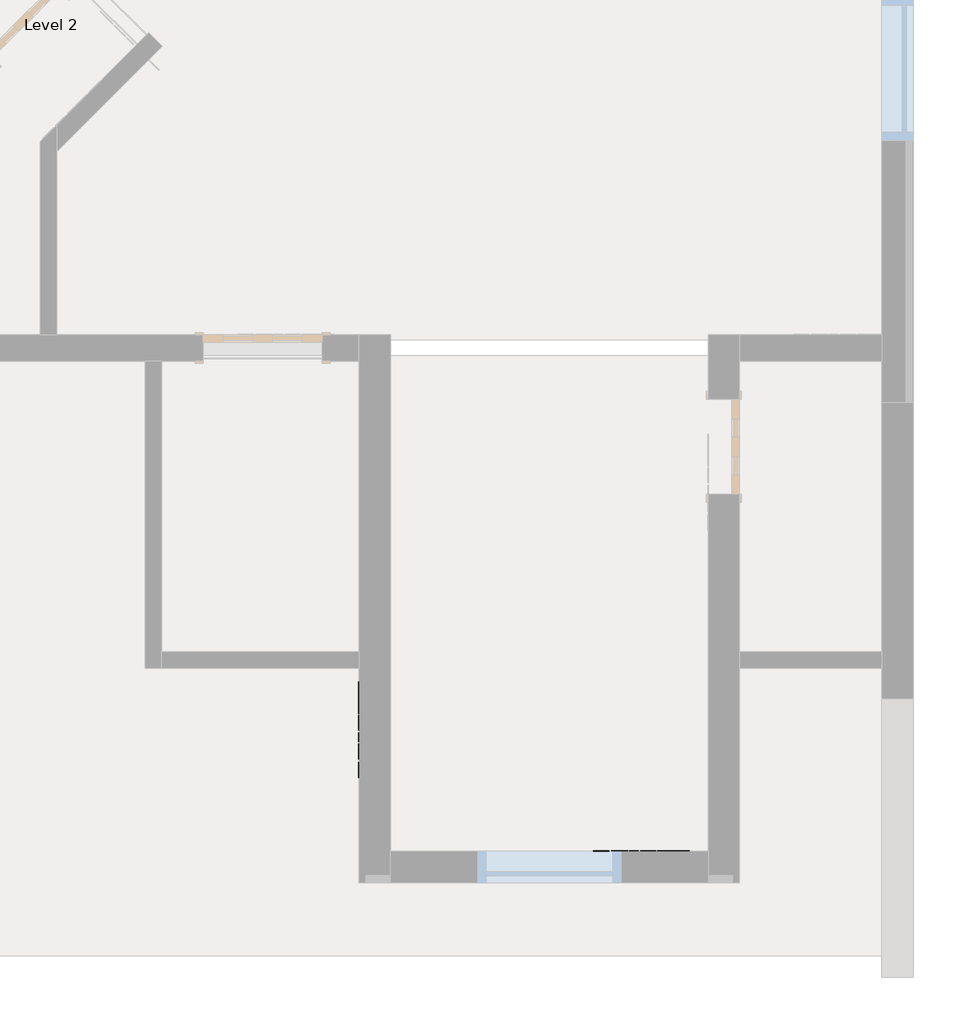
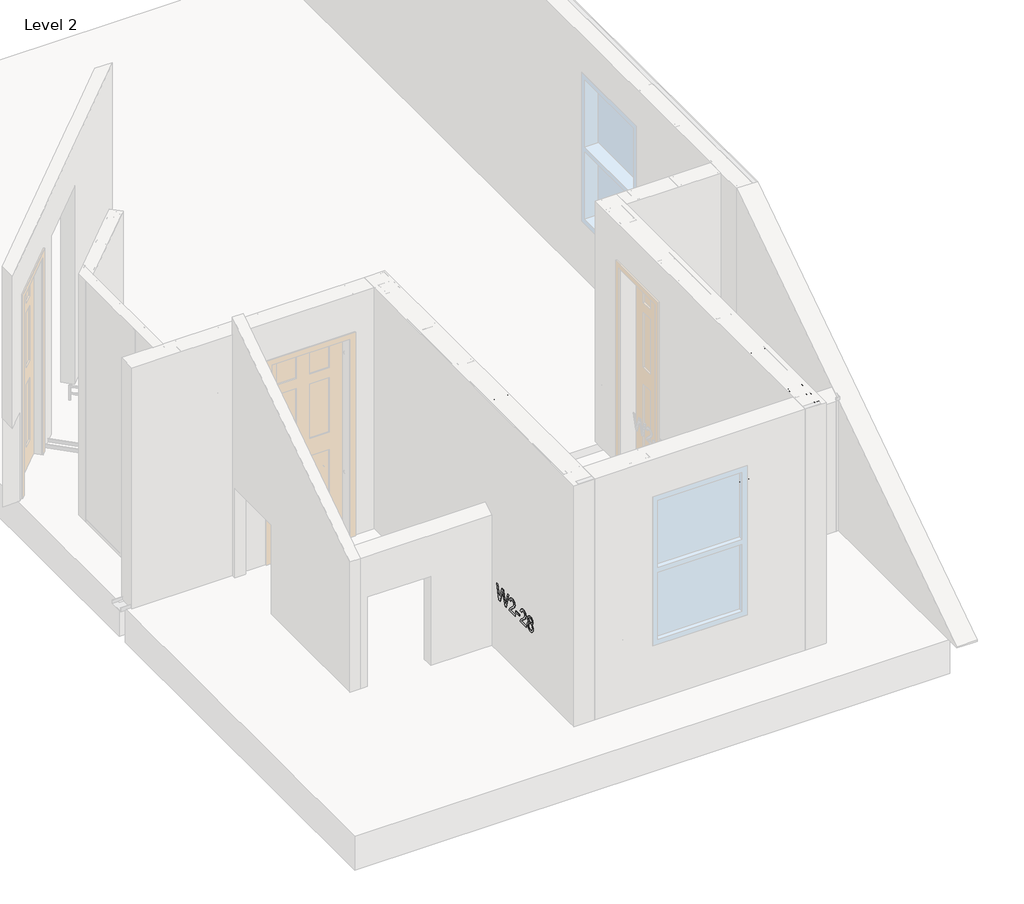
# One storey, part 20 of 46: 6 columns, 2 fasteners, 1 beam.
"""IFC4 building model written with IfcOpenShell, lengths in millimetres."""

from ifc_helpers import new_model, si_unit, point, frame, origin, place, context, project, spatial, circle_curve, ellipse_curve, trimmed, transform, mapped, element, save
from ifc_brep_helpers import plane_surface, extruded_surface, advanced_brep
from components import beam_550nf150_43_cb838aee, panellabel_70b53482, panellabel_4da81780

model = new_model("IFC4")

# Units and contexts
model_context = context("Model", 3, world=origin())
ifc_project = project(units=[si_unit("LENGTHUNIT", "METRE", prefix="MILLI")], contexts=[model_context])

# Site, building, storey
site = spatial("IfcSite", under=ifc_project)
building = spatial("IfcBuilding", under=site)
storey = spatial("IfcBuildingStorey", under=building, Name="Level 2", Elevation=3060.7)

# Beam
placement = place(None, origin())
beam_550nf150_43_shape = beam_550nf150_43_cb838aee(model_context)
element("IfcBeam", 1, ObjectType="BIMSF-SSMA-S : 550NF150-43", at=placement, inside=storey, context=model_context, shape_type="MappedRepresentation", body=[
    mapped(beam_550nf150_43_shape, transform((-6461.2538349, 4799.933471, 3076.575), x_axis=(0.0, 1.0000000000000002, 0.0), y_axis=(0.0, 0.0, -1.0000000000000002), z_axis=(-1.0000000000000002, 0.0, 0.0))),
])

# Columns
element("IfcColumn", 2, ObjectType="BIMSF-SSMA-S-Column : 550NF150-43", at=placement, inside=storey, context=model_context, shape_type="AdvancedBrep", body=[
    advanced_brep(
    [(-4184.7788349, 3927.602221, 3061.5929687), (-4324.4788349, 3927.602221, 3061.5929687), (-4324.4788349, 3965.702221, 3061.5929687), (-4318.5539507, 3965.702221, 3061.5929687), (-4318.5539507, 3964.5525367, 3061.5929687), (-4323.3291507, 3964.5525367, 3061.5929687), (-4323.3291507, 3928.7519052, 3061.5929687), (-4185.9285191, 3928.7519052, 3061.5929687), (-4185.9285191, 3964.5525367, 3061.5929687), (-4190.7037191, 3964.5525367, 3061.5929687), (-4190.7037191, 3965.702221, 3061.5929687), (-4184.7788349, 3965.702221, 3061.5929687), (-4184.7788349, 3927.602221, 5523.6070313), (-4324.4788349, 3927.602221, 5523.6070313), (-4267.3288349, 3927.602221, 3671.1929688), (-4241.9288349, 3927.602221, 3671.1929687), (-4267.3288349, 3927.602221, 4890.3929687), (-4241.9288349, 3927.602221, 4890.3929687), (-4324.4788349, 3965.702221, 5523.6070313), (-4318.5539507, 3965.702221, 5523.6070313), (-4318.5539507, 3964.5525367, 5523.6070313), (-4323.3291507, 3964.5525367, 5523.6070313), (-4323.3291507, 3928.7519052, 5523.6070313), (-4185.9285191, 3928.7519052, 5523.6070313), (-4241.9288349, 3928.7519052, 3671.1929687), (-4267.3288349, 3928.7519052, 3671.1929688), (-4241.9288349, 3928.7519052, 4890.3929687), (-4267.3288349, 3928.7519052, 4890.3929687), (-4185.9285191, 3964.5525367, 5523.6070313), (-4190.7037191, 3964.5525367, 5523.6070313), (-4190.7037191, 3965.702221, 5523.6070313), (-4184.7788349, 3965.702221, 5523.6070313)],
    [
        (0, 1),
        (1, 2),
        (2, 3),
        (3, 4),
        (4, 5),
        (5, 6),
        (6, 7),
        (7, 8),
        (8, 9),
        (9, 10),
        (10, 11),
        (11, 0),
        (0, 12),
        (12, 13),
        (13, 1),
        (14, 15, circle_curve(frame((-4254.6288349, 3927.602221, 3671.1929688), z_axis=(0.0, 1.0, 0.0), x_axis=(-1.0, 0.0, 0.0)), 12.7)),
        (15, 14, circle_curve(frame((-4254.6288349, 3927.602221, 3671.1929687), z_axis=(0.0, 1.0, 0.0), x_axis=(-1.0, 0.0, 0.0)), 12.7)),
        (16, 17, circle_curve(frame((-4254.6288349, 3927.602221, 4890.3929687), z_axis=(0.0, 1.0, 0.0), x_axis=(-1.0, 0.0, 0.0)), 12.7)),
        (17, 16, circle_curve(frame((-4254.6288349, 3927.602221, 4890.3929687), z_axis=(0.0, 1.0, 0.0), x_axis=(-1.0, 0.0, 0.0)), 12.7)),
        (13, 18),
        (18, 2),
        (18, 19),
        (19, 3),
        (19, 20),
        (20, 4),
        (20, 21),
        (21, 5),
        (21, 22),
        (22, 6),
        (22, 23),
        (23, 7),
        (24, 25, circle_curve(frame((-4254.6288349, 3928.7519052, 3671.1929688), z_axis=(0.0, -1.0, 0.0), x_axis=(-1.0, 0.0, 0.0)), 12.7)),
        (25, 24, circle_curve(frame((-4254.6288349, 3928.7519052, 3671.1929688), z_axis=(0.0, -1.0, 0.0), x_axis=(-1.0, 0.0, 0.0)), 12.7)),
        (26, 27, circle_curve(frame((-4254.6288349, 3928.7519052, 4890.3929687), z_axis=(0.0, -1.0, 0.0), x_axis=(-1.0, 0.0, 0.0)), 12.7)),
        (27, 26, circle_curve(frame((-4254.6288349, 3928.7519052, 4890.3929687), z_axis=(0.0, -1.0, 0.0), x_axis=(-1.0, 0.0, 0.0)), 12.7)),
        (23, 28),
        (28, 8),
        (28, 29),
        (29, 9),
        (29, 30),
        (30, 10),
        (30, 31),
        (31, 11),
        (31, 12),
        (24, 15),
        (14, 25),
        (26, 17),
        (16, 27),
    ],
    [
        plane_surface(frame((-4184.7788349, 3927.602221, 3061.5929687), z_axis=(0.0, 0.0, -1.0), x_axis=(0.0, -1.0, 0.0))),
        plane_surface(frame((-4324.4788349, 3927.602221, 5523.6070313), z_axis=(0.0, -1.0, 0.0), x_axis=(0.0, 0.0, -1.0))),
        plane_surface(frame((-4324.4788349, 3965.702221, 5523.6070313), z_axis=(-1.0, 0.0, 0.0), x_axis=(0.0, 0.0, -1.0))),
        plane_surface(frame((-4318.5539507, 3965.702221, 5523.6070313), z_axis=(0.0, 1.0, 0.0), x_axis=(0.0, 0.0, -1.0))),
        plane_surface(frame((-4318.5539507, 3964.5525367, 5523.6070313), z_axis=(1.0, 0.0, 0.0), x_axis=(0.0, 0.0, -1.0))),
        plane_surface(frame((-4323.3291507, 3964.5525367, 5523.6070313), z_axis=(0.0, -1.0, 0.0), x_axis=(0.0, 0.0, -1.0))),
        plane_surface(frame((-4323.3291507, 3928.7519052, 5523.6070313), z_axis=(1.0, 0.0, 0.0), x_axis=(0.0, 0.0, -1.0))),
        plane_surface(frame((-4185.9285191, 3928.7519052, 5523.6070313), z_axis=(0.0, 1.0, 0.0), x_axis=(0.0, 0.0, -1.0))),
        plane_surface(frame((-4185.9285191, 3964.5525367, 5523.6070313), z_axis=(-1.0, 0.0, 0.0), x_axis=(0.0, 0.0, -1.0))),
        plane_surface(frame((-4190.7037191, 3964.5525367, 5523.6070313), z_axis=(0.0, -1.0, 0.0), x_axis=(0.0, 0.0, -1.0))),
        plane_surface(frame((-4190.7037191, 3965.702221, 5523.6070313), z_axis=(-1.0, 0.0, 0.0), x_axis=(0.0, 0.0, -1.0))),
        plane_surface(frame((-4184.7788349, 3965.702221, 5523.6070313), z_axis=(0.0, 1.0, 0.0), x_axis=(0.0, 0.0, -1.0))),
        plane_surface(frame((-4184.7788349, 3927.602221, 5523.6070313), z_axis=(1.0, 0.0, 0.0), x_axis=(0.0, 0.0, -1.0))),
        plane_surface(frame((-4184.7788349, 3927.602221, 5523.6070313), z_axis=(0.0, 0.0, 1.0), x_axis=(0.0, 1.0, 0.0))),
        extruded_surface(trimmed(ellipse_curve(frame((-4254.6288349, 6408.6662835, 3671.1929688), z_axis=(0.0, -1.0, 0.0), x_axis=(-1.0, 0.0, 0.0)), 12.7, 12.7), [point((-4241.9288349, 6408.6662835, 3671.1929688))], [point((-4267.3288349, 6408.6662835, 3671.1929688))], True, "CARTESIAN"), (0.0, 4924.028125, 0.0), 4924.028125),
        extruded_surface(trimmed(ellipse_curve(frame((-4254.6288349, 6408.6662835, 3671.1929688), z_axis=(0.0, -1.0, 0.0), x_axis=(-1.0, 0.0, 0.0)), 12.7, 12.7), [point((-4267.3288349, 6408.6662835, 3671.1929688))], [point((-4241.9288349, 6408.6662835, 3671.1929688))], True, "CARTESIAN"), (0.0, 4924.028125, 0.0), 4924.028125),
        extruded_surface(trimmed(ellipse_curve(frame((-4254.6288349, 6408.6662835, 4890.3929687), z_axis=(0.0, -1.0, 0.0), x_axis=(-1.0, 0.0, 0.0)), 12.7, 12.7), [point((-4241.9288349, 6408.6662835, 4890.3929687))], [point((-4267.3288349, 6408.6662835, 4890.3929687))], True, "CARTESIAN"), (0.0, 4924.028125, 0.0), 4924.028125),
        extruded_surface(trimmed(ellipse_curve(frame((-4254.6288349, 6408.6662835, 4890.3929687), z_axis=(0.0, -1.0, 0.0), x_axis=(-1.0, 0.0, 0.0)), 12.7, 12.7), [point((-4267.3288349, 6408.6662835, 4890.3929687))], [point((-4241.9288349, 6408.6662835, 4890.3929687))], True, "CARTESIAN"), (0.0, 4924.028125, 0.0), 4924.028125),
    ],
    [
        (0, [[1, 2, 3, 4, 5, 6, 7, 8, 9, 10, 11, 12]]),
        (1, [[-1, 13, 14, 15], [16, 17], [18, 19]]),
        (2, [[-2, -15, 20, 21]]),
        (3, [[-3, -21, 22, 23]]),
        (4, [[-4, -23, 24, 25]]),
        (5, [[-5, -25, 26, 27]]),
        (6, [[-6, -27, 28, 29]]),
        (7, [[-7, -29, 30, 31], [32, 33], [34, 35]]),
        (8, [[-8, -31, 36, 37]]),
        (9, [[-9, -37, 38, 39]]),
        (10, [[-10, -39, 40, 41]]),
        (11, [[-11, -41, 42, 43]]),
        (12, [[-12, -43, 44, -13]]),
        (13, [[-14, -44, -42, -40, -38, -36, -30, -28, -26, -24, -22, -20]]),
        (14, [[45, -16, 46, -32]]),
        (15, [[-45, -33, -46, -17]]),
        (16, [[47, -18, 48, -34]]),
        (17, [[-47, -35, -48, -19]]),
    ],
),
])
element("IfcColumn", 3, ObjectType="BIMSF-SSMA-S-Column : 550NF150-43", at=placement, inside=storey, context=model_context, shape_type="AdvancedBrep", body=[
    advanced_brep(
    [(-4184.7788349, 3318.002221, 3061.5929687), (-4324.4788349, 3318.002221, 3061.5929687), (-4324.4788349, 3356.102221, 3061.5929687), (-4318.5539507, 3356.102221, 3061.5929687), (-4318.5539507, 3354.9525367, 3061.5929687), (-4323.3291507, 3354.9525367, 3061.5929687), (-4323.3291507, 3319.1519052, 3061.5929687), (-4185.9285191, 3319.1519052, 3061.5929687), (-4185.9285191, 3354.9525367, 3061.5929687), (-4190.7037191, 3354.9525367, 3061.5929687), (-4190.7037191, 3356.102221, 3061.5929687), (-4184.7788349, 3356.102221, 3061.5929687), (-4184.7788349, 3318.002221, 5523.6070313), (-4324.4788349, 3318.002221, 5523.6070313), (-4267.3288349, 3318.002221, 3671.1929687), (-4241.9288349, 3318.002221, 3671.1929687), (-4267.3288349, 3318.002221, 4890.3929687), (-4241.9288349, 3318.002221, 4890.3929687), (-4324.4788349, 3356.102221, 5523.6070313), (-4318.5539507, 3356.102221, 5523.6070313), (-4318.5539507, 3354.9525367, 5523.6070313), (-4323.3291507, 3354.9525367, 5523.6070313), (-4323.3291507, 3319.1519052, 5523.6070313), (-4185.9285191, 3319.1519052, 5523.6070313), (-4241.9288349, 3319.1519052, 3671.1929688), (-4267.3288349, 3319.1519052, 3671.1929688), (-4241.9288349, 3319.1519052, 4890.3929687), (-4267.3288349, 3319.1519052, 4890.3929687), (-4185.9285191, 3354.9525367, 5523.6070313), (-4190.7037191, 3354.9525367, 5523.6070313), (-4190.7037191, 3356.102221, 5523.6070313), (-4184.7788349, 3356.102221, 5523.6070313)],
    [
        (0, 1),
        (1, 2),
        (2, 3),
        (3, 4),
        (4, 5),
        (5, 6),
        (6, 7),
        (7, 8),
        (8, 9),
        (9, 10),
        (10, 11),
        (11, 0),
        (0, 12),
        (12, 13),
        (13, 1),
        (14, 15, circle_curve(frame((-4254.6288349, 3318.002221, 3671.1929688), z_axis=(0.0, 1.0, 0.0), x_axis=(-1.0, 0.0, 0.0)), 12.7)),
        (15, 14, circle_curve(frame((-4254.6288349, 3318.002221, 3671.1929688), z_axis=(0.0, 1.0, 0.0), x_axis=(-1.0, 0.0, 0.0)), 12.7)),
        (16, 17, circle_curve(frame((-4254.6288349, 3318.002221, 4890.3929687), z_axis=(0.0, 1.0, 0.0), x_axis=(-1.0, 0.0, 0.0)), 12.7)),
        (17, 16, circle_curve(frame((-4254.6288349, 3318.002221, 4890.3929687), z_axis=(0.0, 1.0, 0.0), x_axis=(-1.0, 0.0, 0.0)), 12.7)),
        (13, 18),
        (18, 2),
        (18, 19),
        (19, 3),
        (19, 20),
        (20, 4),
        (20, 21),
        (21, 5),
        (21, 22),
        (22, 6),
        (22, 23),
        (23, 7),
        (24, 25, circle_curve(frame((-4254.6288349, 3319.1519052, 3671.1929688), z_axis=(0.0, -1.0, 0.0), x_axis=(-1.0, 0.0, 0.0)), 12.7)),
        (25, 24, circle_curve(frame((-4254.6288349, 3319.1519052, 3671.1929688), z_axis=(0.0, -1.0, 0.0), x_axis=(-1.0, 0.0, 0.0)), 12.7)),
        (26, 27, circle_curve(frame((-4254.6288349, 3319.1519052, 4890.3929687), z_axis=(0.0, -1.0, 0.0), x_axis=(-1.0, 0.0, 0.0)), 12.7)),
        (27, 26, circle_curve(frame((-4254.6288349, 3319.1519052, 4890.3929687), z_axis=(0.0, -1.0, 0.0), x_axis=(-1.0, 0.0, 0.0)), 12.7)),
        (23, 28),
        (28, 8),
        (28, 29),
        (29, 9),
        (29, 30),
        (30, 10),
        (30, 31),
        (31, 11),
        (31, 12),
        (24, 15),
        (14, 25),
        (26, 17),
        (16, 27),
    ],
    [
        plane_surface(frame((-4184.7788349, 3318.002221, 3061.5929687), z_axis=(0.0, 0.0, -1.0), x_axis=(0.0, -1.0, 0.0))),
        plane_surface(frame((-4324.4788349, 3318.002221, 5523.6070313), z_axis=(0.0, -1.0, 0.0), x_axis=(0.0, 0.0, -1.0))),
        plane_surface(frame((-4324.4788349, 3356.102221, 5523.6070313), z_axis=(-1.0, 0.0, 0.0), x_axis=(0.0, 0.0, -1.0))),
        plane_surface(frame((-4318.5539507, 3356.102221, 5523.6070313), z_axis=(0.0, 1.0, 0.0), x_axis=(0.0, 0.0, -1.0))),
        plane_surface(frame((-4318.5539507, 3354.9525367, 5523.6070313), z_axis=(1.0, 0.0, 0.0), x_axis=(0.0, 0.0, -1.0))),
        plane_surface(frame((-4323.3291507, 3354.9525367, 5523.6070313), z_axis=(0.0, -1.0, 0.0), x_axis=(0.0, 0.0, -1.0))),
        plane_surface(frame((-4323.3291507, 3319.1519052, 5523.6070313), z_axis=(1.0, 0.0, 0.0), x_axis=(0.0, 0.0, -1.0))),
        plane_surface(frame((-4185.9285191, 3319.1519052, 5523.6070313), z_axis=(0.0, 1.0, 0.0), x_axis=(0.0, 0.0, -1.0))),
        plane_surface(frame((-4185.9285191, 3354.9525367, 5523.6070313), z_axis=(-1.0, 0.0, 0.0), x_axis=(0.0, 0.0, -1.0))),
        plane_surface(frame((-4190.7037191, 3354.9525367, 5523.6070313), z_axis=(0.0, -1.0, 0.0), x_axis=(0.0, 0.0, -1.0))),
        plane_surface(frame((-4190.7037191, 3356.102221, 5523.6070313), z_axis=(-1.0, 0.0, 0.0), x_axis=(0.0, 0.0, -1.0))),
        plane_surface(frame((-4184.7788349, 3356.102221, 5523.6070313), z_axis=(0.0, 1.0, 0.0), x_axis=(0.0, 0.0, -1.0))),
        plane_surface(frame((-4184.7788349, 3318.002221, 5523.6070313), z_axis=(1.0, 0.0, 0.0), x_axis=(0.0, 0.0, -1.0))),
        plane_surface(frame((-4184.7788349, 3318.002221, 5523.6070313), z_axis=(0.0, 0.0, 1.0), x_axis=(0.0, 1.0, 0.0))),
        extruded_surface(trimmed(ellipse_curve(frame((-4254.6288349, 5799.0662835, 3671.1929688), z_axis=(0.0, -1.0, 0.0), x_axis=(-1.0, 0.0, 0.0)), 12.7, 12.7), [point((-4241.9288349, 5799.0662835, 3671.1929688))], [point((-4267.3288349, 5799.0662835, 3671.1929688))], True, "CARTESIAN"), (0.0, 4924.028124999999, 0.0), 4924.028124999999),
        extruded_surface(trimmed(ellipse_curve(frame((-4254.6288349, 5799.0662835, 3671.1929688), z_axis=(0.0, -1.0, 0.0), x_axis=(-1.0, 0.0, 0.0)), 12.7, 12.7), [point((-4267.3288349, 5799.0662835, 3671.1929688))], [point((-4241.9288349, 5799.0662835, 3671.1929688))], True, "CARTESIAN"), (0.0, 4924.028124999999, 0.0), 4924.028124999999),
        extruded_surface(trimmed(ellipse_curve(frame((-4254.6288349, 5799.0662835, 4890.3929687), z_axis=(0.0, -1.0, 0.0), x_axis=(-1.0, 0.0, 0.0)), 12.7, 12.7), [point((-4241.9288349, 5799.0662835, 4890.3929687))], [point((-4267.3288349, 5799.0662835, 4890.3929687))], True, "CARTESIAN"), (0.0, 4924.028124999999, 0.0), 4924.028124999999),
        extruded_surface(trimmed(ellipse_curve(frame((-4254.6288349, 5799.0662835, 4890.3929687), z_axis=(0.0, -1.0, 0.0), x_axis=(-1.0, 0.0, 0.0)), 12.7, 12.7), [point((-4267.3288349, 5799.0662835, 4890.3929687))], [point((-4241.9288349, 5799.0662835, 4890.3929687))], True, "CARTESIAN"), (0.0, 4924.028124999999, 0.0), 4924.028124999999),
    ],
    [
        (0, [[1, 2, 3, 4, 5, 6, 7, 8, 9, 10, 11, 12]]),
        (1, [[-1, 13, 14, 15], [16, 17], [18, 19]]),
        (2, [[-2, -15, 20, 21]]),
        (3, [[-3, -21, 22, 23]]),
        (4, [[-4, -23, 24, 25]]),
        (5, [[-5, -25, 26, 27]]),
        (6, [[-6, -27, 28, 29]]),
        (7, [[-7, -29, 30, 31], [32, 33], [34, 35]]),
        (8, [[-8, -31, 36, 37]]),
        (9, [[-9, -37, 38, 39]]),
        (10, [[-10, -39, 40, 41]]),
        (11, [[-11, -41, 42, 43]]),
        (12, [[-12, -43, 44, -13]]),
        (13, [[-14, -44, -42, -40, -38, -36, -30, -28, -26, -24, -22, -20]]),
        (14, [[45, -16, 46, -32]]),
        (15, [[-45, -33, -46, -17]]),
        (16, [[47, -18, 48, -34]]),
        (17, [[-47, -35, -48, -19]]),
    ],
),
])
element("IfcColumn", 4, ObjectType="BIMSF-SSMA-S-Column : 550NF150-43", at=placement, inside=storey, context=model_context, shape_type="AdvancedBrep", body=[
    advanced_brep(
    [(-4900.7413349, 3075.114721, 3061.5929687), (-4900.7413349, 3214.814721, 3061.5929687), (-4862.6413349, 3214.814721, 3061.5929687), (-4862.6413349, 3208.8898367, 3061.5929687), (-4863.7910191, 3208.8898367, 3061.5929687), (-4863.7910191, 3213.6650367, 3061.5929687), (-4899.5916507, 3213.6650367, 3061.5929687), (-4899.5916507, 3076.2644052, 3061.5929687), (-4863.7910191, 3076.2644052, 3061.5929687), (-4863.7910191, 3081.0396052, 3061.5929687), (-4862.6413349, 3081.0396052, 3061.5929687), (-4862.6413349, 3075.114721, 3061.5929687), (-4900.7413349, 3075.114721, 5523.6070313), (-4900.7413349, 3214.814721, 5523.6070313), (-4900.7413349, 3157.664721, 3671.1929687), (-4900.7413349, 3132.264721, 3671.1929687), (-4900.7413349, 3157.664721, 4890.3929687), (-4900.7413349, 3132.264721, 4890.3929687), (-4862.6413349, 3214.814721, 5523.6070313), (-4862.6413349, 3208.8898367, 5523.6070313), (-4863.7910191, 3208.8898367, 5523.6070313), (-4863.7910191, 3213.6650367, 5523.6070313), (-4899.5916507, 3213.6650367, 5523.6070313), (-4899.5916507, 3076.2644052, 5523.6070313), (-4899.5916507, 3132.264721, 3671.1929688), (-4899.5916507, 3157.664721, 3671.1929688), (-4899.5916507, 3132.264721, 4890.3929687), (-4899.5916507, 3157.664721, 4890.3929687), (-4863.7910191, 3076.2644052, 5523.6070313), (-4863.7910191, 3081.0396052, 5523.6070313), (-4862.6413349, 3081.0396052, 5523.6070313), (-4862.6413349, 3075.114721, 5523.6070313)],
    [
        (0, 1),
        (1, 2),
        (2, 3),
        (3, 4),
        (4, 5),
        (5, 6),
        (6, 7),
        (7, 8),
        (8, 9),
        (9, 10),
        (10, 11),
        (11, 0),
        (0, 12),
        (12, 13),
        (13, 1),
        (14, 15, circle_curve(frame((-4900.7413349, 3144.964721, 3671.1929687), z_axis=(1.0, 0.0, 0.0), x_axis=(0.0, 1.0, 0.0)), 12.7)),
        (15, 14, circle_curve(frame((-4900.7413349, 3144.964721, 3671.1929687), z_axis=(1.0, 0.0, 0.0), x_axis=(0.0, 1.0, 0.0)), 12.7)),
        (16, 17, circle_curve(frame((-4900.7413349, 3144.964721, 4890.3929687), z_axis=(1.0, 0.0, 0.0), x_axis=(0.0, 1.0, 0.0)), 12.7)),
        (17, 16, circle_curve(frame((-4900.7413349, 3144.964721, 4890.3929687), z_axis=(1.0, 0.0, 0.0), x_axis=(0.0, 1.0, 0.0)), 12.7)),
        (13, 18),
        (18, 2),
        (18, 19),
        (19, 3),
        (19, 20),
        (20, 4),
        (20, 21),
        (21, 5),
        (21, 22),
        (22, 6),
        (22, 23),
        (23, 7),
        (24, 25, circle_curve(frame((-4899.5916507, 3144.964721, 3671.1929687), z_axis=(-1.0, 0.0, 0.0), x_axis=(0.0, 1.0, 0.0)), 12.7)),
        (25, 24, circle_curve(frame((-4899.5916507, 3144.964721, 3671.1929687), z_axis=(-1.0, 0.0, 0.0), x_axis=(0.0, 1.0, 0.0)), 12.7)),
        (26, 27, circle_curve(frame((-4899.5916507, 3144.964721, 4890.3929687), z_axis=(-1.0, 0.0, 0.0), x_axis=(0.0, 1.0, 0.0)), 12.7)),
        (27, 26, circle_curve(frame((-4899.5916507, 3144.964721, 4890.3929687), z_axis=(-1.0, 0.0, 0.0), x_axis=(0.0, 1.0, 0.0)), 12.7)),
        (23, 28),
        (28, 8),
        (28, 29),
        (29, 9),
        (29, 30),
        (30, 10),
        (30, 31),
        (31, 11),
        (31, 12),
        (24, 15),
        (14, 25),
        (26, 17),
        (16, 27),
    ],
    [
        plane_surface(frame((-4900.7413349, 3075.114721, 3061.5929687), z_axis=(0.0, 0.0, -1.0), x_axis=(-1.0, 0.0, 0.0))),
        plane_surface(frame((-4900.7413349, 3214.814721, 5523.6070313), z_axis=(-1.0, 0.0, 0.0), x_axis=(0.0, 0.0, -1.0))),
        plane_surface(frame((-4862.6413349, 3214.814721, 5523.6070313), z_axis=(0.0, 1.0, 0.0), x_axis=(0.0, 0.0, -1.0))),
        plane_surface(frame((-4862.6413349, 3208.8898367, 5523.6070313), z_axis=(1.0, 0.0, 0.0), x_axis=(0.0, 0.0, -1.0))),
        plane_surface(frame((-4863.7910191, 3208.8898367, 5523.6070313), z_axis=(0.0, -1.0, 0.0), x_axis=(0.0, 0.0, -1.0))),
        plane_surface(frame((-4863.7910191, 3213.6650367, 5523.6070313), z_axis=(-1.0, 0.0, 0.0), x_axis=(0.0, 0.0, -1.0))),
        plane_surface(frame((-4899.5916507, 3213.6650367, 5523.6070313), z_axis=(0.0, -1.0, 0.0), x_axis=(0.0, 0.0, -1.0))),
        plane_surface(frame((-4899.5916507, 3076.2644052, 5523.6070313), z_axis=(1.0, 0.0, 0.0), x_axis=(0.0, 0.0, -1.0))),
        plane_surface(frame((-4863.7910191, 3076.2644052, 5523.6070313), z_axis=(0.0, 1.0, 0.0), x_axis=(0.0, 0.0, -1.0))),
        plane_surface(frame((-4863.7910191, 3081.0396052, 5523.6070313), z_axis=(-1.0, 0.0, 0.0), x_axis=(0.0, 0.0, -1.0))),
        plane_surface(frame((-4862.6413349, 3081.0396052, 5523.6070313), z_axis=(0.0, 1.0, 0.0), x_axis=(0.0, 0.0, -1.0))),
        plane_surface(frame((-4862.6413349, 3075.114721, 5523.6070313), z_axis=(1.0, 0.0, 0.0), x_axis=(0.0, 0.0, -1.0))),
        plane_surface(frame((-4900.7413349, 3075.114721, 5523.6070313), z_axis=(0.0, -1.0, 0.0), x_axis=(0.0, 0.0, -1.0))),
        plane_surface(frame((-4900.7413349, 3075.114721, 5523.6070313), z_axis=(0.0, 0.0, 1.0), x_axis=(1.0, 0.0, 0.0))),
        extruded_surface(trimmed(ellipse_curve(frame((-2419.6772724, 3144.964721, 3671.1929688), z_axis=(-1.0, 0.0, 0.0), x_axis=(0.0, 1.0, 0.0)), 12.7, 12.7), [point((-2419.6772724, 3132.264721, 3671.1929688))], [point((-2419.6772724, 3157.664721, 3671.1929688))], True, "CARTESIAN"), (4924.028125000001, 0.0, 0.0), 4924.028125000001),
        extruded_surface(trimmed(ellipse_curve(frame((-2419.6772724, 3144.964721, 3671.1929688), z_axis=(-1.0, 0.0, 0.0), x_axis=(0.0, 1.0, 0.0)), 12.7, 12.7), [point((-2419.6772724, 3157.664721, 3671.1929688))], [point((-2419.6772724, 3132.264721, 3671.1929688))], True, "CARTESIAN"), (4924.028125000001, 0.0, 0.0), 4924.028125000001),
        extruded_surface(trimmed(ellipse_curve(frame((-2419.6772724, 3144.964721, 4890.3929687), z_axis=(-1.0, 0.0, 0.0), x_axis=(0.0, 1.0, 0.0)), 12.7, 12.7), [point((-2419.6772724, 3132.264721, 4890.3929687))], [point((-2419.6772724, 3157.664721, 4890.3929687))], True, "CARTESIAN"), (4924.028125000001, 0.0, 0.0), 4924.028125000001),
        extruded_surface(trimmed(ellipse_curve(frame((-2419.6772724, 3144.964721, 4890.3929687), z_axis=(-1.0, 0.0, 0.0), x_axis=(0.0, 1.0, 0.0)), 12.7, 12.7), [point((-2419.6772724, 3157.664721, 4890.3929687))], [point((-2419.6772724, 3132.264721, 4890.3929687))], True, "CARTESIAN"), (4924.028125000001, 0.0, 0.0), 4924.028125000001),
    ],
    [
        (0, [[1, 2, 3, 4, 5, 6, 7, 8, 9, 10, 11, 12]]),
        (1, [[-1, 13, 14, 15], [16, 17], [18, 19]]),
        (2, [[-2, -15, 20, 21]]),
        (3, [[-3, -21, 22, 23]]),
        (4, [[-4, -23, 24, 25]]),
        (5, [[-5, -25, 26, 27]]),
        (6, [[-6, -27, 28, 29]]),
        (7, [[-7, -29, 30, 31], [32, 33], [34, 35]]),
        (8, [[-8, -31, 36, 37]]),
        (9, [[-9, -37, 38, 39]]),
        (10, [[-10, -39, 40, 41]]),
        (11, [[-11, -41, 42, 43]]),
        (12, [[-12, -43, 44, -13]]),
        (13, [[-14, -44, -42, -40, -38, -36, -30, -28, -26, -24, -22, -20]]),
        (14, [[45, -16, 46, -32]]),
        (15, [[-45, -33, -46, -17]]),
        (16, [[47, -18, 48, -34]]),
        (17, [[-47, -35, -48, -19]]),
    ],
),
])
element("IfcColumn", 5, ObjectType="BIMSF-SSMA-S-Column : 550NF150-43", at=placement, inside=storey, context=model_context, shape_type="AdvancedBrep", body=[
    advanced_brep(
    [(-4184.7788349, 3214.814721, 3061.5929687), (-4184.7788349, 3075.114721, 3061.5929687), (-4222.8788349, 3075.114721, 3061.5929687), (-4222.8788349, 3081.0396052, 3061.5929687), (-4221.7291507, 3081.0396052, 3061.5929687), (-4221.7291507, 3076.2644052, 3061.5929687), (-4185.9285191, 3076.2644052, 3061.5929687), (-4185.9285191, 3213.6650367, 3061.5929687), (-4221.7291507, 3213.6650367, 3061.5929687), (-4221.7291507, 3208.8898367, 3061.5929687), (-4222.8788349, 3208.8898367, 3061.5929687), (-4222.8788349, 3214.814721, 3061.5929687), (-4184.7788349, 3214.814721, 5523.6070313), (-4184.7788349, 3075.114721, 5523.6070313), (-4184.7788349, 3132.264721, 3671.1929688), (-4184.7788349, 3157.664721, 3671.1929688), (-4184.7788349, 3132.264721, 4890.3929687), (-4184.7788349, 3157.664721, 4890.3929687), (-4222.8788349, 3075.114721, 5523.6070313), (-4222.8788349, 3081.0396052, 5523.6070313), (-4221.7291507, 3081.0396052, 5523.6070313), (-4221.7291507, 3076.2644052, 5523.6070313), (-4185.9285191, 3076.2644052, 5523.6070313), (-4185.9285191, 3213.6650367, 5523.6070313), (-4185.9285191, 3157.664721, 3671.1929688), (-4185.9285191, 3132.264721, 3671.1929688), (-4185.9285191, 3157.664721, 4890.3929687), (-4185.9285191, 3132.264721, 4890.3929687), (-4221.7291507, 3213.6650367, 5523.6070313), (-4221.7291507, 3208.8898367, 5523.6070313), (-4222.8788349, 3208.8898367, 5523.6070313), (-4222.8788349, 3214.814721, 5523.6070313)],
    [
        (0, 1),
        (1, 2),
        (2, 3),
        (3, 4),
        (4, 5),
        (5, 6),
        (6, 7),
        (7, 8),
        (8, 9),
        (9, 10),
        (10, 11),
        (11, 0),
        (0, 12),
        (12, 13),
        (13, 1),
        (14, 15, circle_curve(frame((-4184.7788349, 3144.964721, 3671.1929688), z_axis=(-1.0, 0.0, 0.0), x_axis=(0.0, -1.0, 0.0)), 12.7)),
        (15, 14, circle_curve(frame((-4184.7788349, 3144.964721, 3671.1929688), z_axis=(-1.0, 0.0, 0.0), x_axis=(0.0, -1.0, 0.0)), 12.7)),
        (16, 17, circle_curve(frame((-4184.7788349, 3144.964721, 4890.3929688), z_axis=(-1.0, 0.0, 0.0), x_axis=(0.0, -1.0, 0.0)), 12.7)),
        (17, 16, circle_curve(frame((-4184.7788349, 3144.964721, 4890.3929688), z_axis=(-1.0, 0.0, 0.0), x_axis=(0.0, -1.0, 0.0)), 12.7)),
        (13, 18),
        (18, 2),
        (18, 19),
        (19, 3),
        (19, 20),
        (20, 4),
        (20, 21),
        (21, 5),
        (21, 22),
        (22, 6),
        (22, 23),
        (23, 7),
        (24, 25, circle_curve(frame((-4185.9285191, 3144.964721, 3671.1929688), z_axis=(1.0, 0.0, 0.0), x_axis=(0.0, -1.0, 0.0)), 12.7)),
        (25, 24, circle_curve(frame((-4185.9285191, 3144.964721, 3671.1929688), z_axis=(1.0, 0.0, 0.0), x_axis=(0.0, -1.0, 0.0)), 12.7)),
        (26, 27, circle_curve(frame((-4185.9285191, 3144.964721, 4890.3929687), z_axis=(1.0, 0.0, 0.0), x_axis=(0.0, -1.0, 0.0)), 12.7)),
        (27, 26, circle_curve(frame((-4185.9285191, 3144.964721, 4890.3929687), z_axis=(1.0, 0.0, 0.0), x_axis=(0.0, -1.0, 0.0)), 12.7)),
        (23, 28),
        (28, 8),
        (28, 29),
        (29, 9),
        (29, 30),
        (30, 10),
        (30, 31),
        (31, 11),
        (31, 12),
        (24, 15),
        (14, 25),
        (26, 17),
        (16, 27),
    ],
    [
        plane_surface(frame((-4184.7788349, 3214.814721, 3061.5929687), z_axis=(0.0, 0.0, -1.0), x_axis=(1.0, 0.0, 0.0))),
        plane_surface(frame((-4184.7788349, 3075.114721, 5523.6070313), z_axis=(1.0, 0.0, 0.0), x_axis=(0.0, 0.0, -1.0))),
        plane_surface(frame((-4222.8788349, 3075.114721, 5523.6070313), z_axis=(0.0, -1.0, 0.0), x_axis=(0.0, 0.0, -1.0))),
        plane_surface(frame((-4222.8788349, 3081.0396052, 5523.6070313), z_axis=(-1.0, 0.0, 0.0), x_axis=(0.0, 0.0, -1.0))),
        plane_surface(frame((-4221.7291507, 3081.0396052, 5523.6070313), z_axis=(0.0, 1.0, 0.0), x_axis=(0.0, 0.0, -1.0))),
        plane_surface(frame((-4221.7291507, 3076.2644052, 5523.6070313), z_axis=(1.0, 0.0, 0.0), x_axis=(0.0, 0.0, -1.0))),
        plane_surface(frame((-4185.9285191, 3076.2644052, 5523.6070313), z_axis=(0.0, 1.0, 0.0), x_axis=(0.0, 0.0, -1.0))),
        plane_surface(frame((-4185.9285191, 3213.6650367, 5523.6070313), z_axis=(-1.0, 0.0, 0.0), x_axis=(0.0, 0.0, -1.0))),
        plane_surface(frame((-4221.7291507, 3213.6650367, 5523.6070313), z_axis=(0.0, -1.0, 0.0), x_axis=(0.0, 0.0, -1.0))),
        plane_surface(frame((-4221.7291507, 3208.8898367, 5523.6070313), z_axis=(1.0, 0.0, 0.0), x_axis=(0.0, 0.0, -1.0))),
        plane_surface(frame((-4222.8788349, 3208.8898367, 5523.6070313), z_axis=(0.0, -1.0, 0.0), x_axis=(0.0, 0.0, -1.0))),
        plane_surface(frame((-4222.8788349, 3214.814721, 5523.6070313), z_axis=(-1.0, 0.0, 0.0), x_axis=(0.0, 0.0, -1.0))),
        plane_surface(frame((-4184.7788349, 3214.814721, 5523.6070313), z_axis=(0.0, 1.0, 0.0), x_axis=(0.0, 0.0, -1.0))),
        plane_surface(frame((-4184.7788349, 3214.814721, 5523.6070313), z_axis=(0.0, 0.0, 1.0), x_axis=(-1.0, 0.0, 0.0))),
        extruded_surface(trimmed(ellipse_curve(frame((-6665.8428974, 3144.964721, 3671.1929688), z_axis=(1.0, 0.0, 0.0), x_axis=(0.0, -1.0, 0.0)), 12.7, 12.7), [point((-6665.8428974, 3157.664721, 3671.1929688))], [point((-6665.8428974, 3132.264721, 3671.1929688))], True, "CARTESIAN"), (-4924.028125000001, 0.0, 0.0), 4924.028125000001),
        extruded_surface(trimmed(ellipse_curve(frame((-6665.8428974, 3144.964721, 3671.1929688), z_axis=(1.0, 0.0, 0.0), x_axis=(0.0, -1.0, 0.0)), 12.7, 12.7), [point((-6665.8428974, 3132.264721, 3671.1929688))], [point((-6665.8428974, 3157.664721, 3671.1929688))], True, "CARTESIAN"), (-4924.028125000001, 0.0, 0.0), 4924.028125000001),
        extruded_surface(trimmed(ellipse_curve(frame((-6665.8428974, 3144.964721, 4890.3929687), z_axis=(1.0, 0.0, 0.0), x_axis=(0.0, -1.0, 0.0)), 12.7, 12.7), [point((-6665.8428974, 3157.664721, 4890.3929687))], [point((-6665.8428974, 3132.264721, 4890.3929687))], True, "CARTESIAN"), (-4924.028125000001, 0.0, 0.0), 4924.028125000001),
        extruded_surface(trimmed(ellipse_curve(frame((-6665.8428974, 3144.964721, 4890.3929687), z_axis=(1.0, 0.0, 0.0), x_axis=(0.0, -1.0, 0.0)), 12.7, 12.7), [point((-6665.8428974, 3132.264721, 4890.3929687))], [point((-6665.8428974, 3157.664721, 4890.3929687))], True, "CARTESIAN"), (-4924.028125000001, 0.0, 0.0), 4924.028125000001),
    ],
    [
        (0, [[1, 2, 3, 4, 5, 6, 7, 8, 9, 10, 11, 12]]),
        (1, [[-1, 13, 14, 15], [16, 17], [18, 19]]),
        (2, [[-2, -15, 20, 21]]),
        (3, [[-3, -21, 22, 23]]),
        (4, [[-4, -23, 24, 25]]),
        (5, [[-5, -25, 26, 27]]),
        (6, [[-6, -27, 28, 29]]),
        (7, [[-7, -29, 30, 31], [32, 33], [34, 35]]),
        (8, [[-8, -31, 36, 37]]),
        (9, [[-9, -37, 38, 39]]),
        (10, [[-10, -39, 40, 41]]),
        (11, [[-11, -41, 42, 43]]),
        (12, [[-12, -43, 44, -13]]),
        (13, [[-14, -44, -42, -40, -38, -36, -30, -28, -26, -24, -22, -20]]),
        (14, [[45, -16, 46, -32]]),
        (15, [[-45, -33, -46, -17]]),
        (16, [[47, -18, 48, -34]]),
        (17, [[-47, -35, -48, -19]]),
    ],
),
])
element("IfcColumn", 6, ObjectType="BIMSF-SSMA-S-Column : 550NF150-43", at=placement, inside=storey, context=model_context, shape_type="AdvancedBrep", body=[
    advanced_brep(
    [(-4813.4288349, 3075.114721, 3061.5929687), (-4813.4288349, 3214.814721, 3061.5929687), (-4775.3288349, 3214.814721, 3061.5929687), (-4775.3288349, 3208.8898367, 3061.5929687), (-4776.4785191, 3208.8898367, 3061.5929687), (-4776.4785191, 3213.6650367, 3061.5929687), (-4812.2791507, 3213.6650367, 3061.5929687), (-4812.2791507, 3076.2644052, 3061.5929687), (-4776.4785191, 3076.2644052, 3061.5929687), (-4776.4785191, 3081.0396052, 3061.5929687), (-4775.3288349, 3081.0396052, 3061.5929687), (-4775.3288349, 3075.114721, 3061.5929687), (-4813.4288349, 3075.114721, 5523.6070313), (-4813.4288349, 3214.814721, 5523.6070313), (-4813.4288349, 3157.664721, 3671.1929688), (-4813.4288349, 3132.264721, 3671.1929688), (-4813.4288349, 3157.664721, 4890.3929687), (-4813.4288349, 3132.264721, 4890.3929687), (-4775.3288349, 3214.814721, 5523.6070313), (-4775.3288349, 3208.8898367, 5523.6070313), (-4776.4785191, 3208.8898367, 5523.6070313), (-4776.4785191, 3213.6650367, 5523.6070313), (-4812.2791507, 3213.6650367, 5523.6070313), (-4812.2791507, 3076.2644052, 5523.6070313), (-4812.2791507, 3132.264721, 3671.1929688), (-4812.2791507, 3157.664721, 3671.1929688), (-4812.2791507, 3132.264721, 4890.3929687), (-4812.2791507, 3157.664721, 4890.3929687), (-4776.4785191, 3076.2644052, 5523.6070313), (-4776.4785191, 3081.0396052, 5523.6070313), (-4775.3288349, 3081.0396052, 5523.6070313), (-4775.3288349, 3075.114721, 5523.6070313)],
    [
        (0, 1),
        (1, 2),
        (2, 3),
        (3, 4),
        (4, 5),
        (5, 6),
        (6, 7),
        (7, 8),
        (8, 9),
        (9, 10),
        (10, 11),
        (11, 0),
        (0, 12),
        (12, 13),
        (13, 1),
        (14, 15, circle_curve(frame((-4813.4288349, 3144.964721, 3671.1929687), z_axis=(1.0, 0.0, 0.0), x_axis=(0.0, 1.0, 0.0)), 12.7)),
        (15, 14, circle_curve(frame((-4813.4288349, 3144.964721, 3671.1929687), z_axis=(1.0, 0.0, 0.0), x_axis=(0.0, 1.0, 0.0)), 12.7)),
        (16, 17, circle_curve(frame((-4813.4288349, 3144.964721, 4890.3929687), z_axis=(1.0, 0.0, 0.0), x_axis=(0.0, 1.0, 0.0)), 12.7)),
        (17, 16, circle_curve(frame((-4813.4288349, 3144.964721, 4890.3929687), z_axis=(1.0, 0.0, 0.0), x_axis=(0.0, 1.0, 0.0)), 12.7)),
        (13, 18),
        (18, 2),
        (18, 19),
        (19, 3),
        (19, 20),
        (20, 4),
        (20, 21),
        (21, 5),
        (21, 22),
        (22, 6),
        (22, 23),
        (23, 7),
        (24, 25, circle_curve(frame((-4812.2791507, 3144.964721, 3671.1929688), z_axis=(-1.0, 0.0, 0.0), x_axis=(0.0, 1.0, 0.0)), 12.7)),
        (25, 24, circle_curve(frame((-4812.2791507, 3144.964721, 3671.1929688), z_axis=(-1.0, 0.0, 0.0), x_axis=(0.0, 1.0, 0.0)), 12.7)),
        (26, 27, circle_curve(frame((-4812.2791507, 3144.964721, 4890.3929687), z_axis=(-1.0, 0.0, 0.0), x_axis=(0.0, 1.0, 0.0)), 12.7)),
        (27, 26, circle_curve(frame((-4812.2791507, 3144.964721, 4890.3929687), z_axis=(-1.0, 0.0, 0.0), x_axis=(0.0, 1.0, 0.0)), 12.7)),
        (23, 28),
        (28, 8),
        (28, 29),
        (29, 9),
        (29, 30),
        (30, 10),
        (30, 31),
        (31, 11),
        (31, 12),
        (24, 15),
        (14, 25),
        (26, 17),
        (16, 27),
    ],
    [
        plane_surface(frame((-4813.4288349, 3075.114721, 3061.5929687), z_axis=(0.0, 0.0, -1.0), x_axis=(-1.0, 0.0, 0.0))),
        plane_surface(frame((-4813.4288349, 3214.814721, 5523.6070313), z_axis=(-1.0, 0.0, 0.0), x_axis=(0.0, 0.0, -1.0))),
        plane_surface(frame((-4775.3288349, 3214.814721, 5523.6070313), z_axis=(0.0, 1.0, 0.0), x_axis=(0.0, 0.0, -1.0))),
        plane_surface(frame((-4775.3288349, 3208.8898367, 5523.6070313), z_axis=(1.0, 0.0, 0.0), x_axis=(0.0, 0.0, -1.0))),
        plane_surface(frame((-4776.4785191, 3208.8898367, 5523.6070313), z_axis=(0.0, -1.0, 0.0), x_axis=(0.0, 0.0, -1.0))),
        plane_surface(frame((-4776.4785191, 3213.6650367, 5523.6070313), z_axis=(-1.0, 0.0, 0.0), x_axis=(0.0, 0.0, -1.0))),
        plane_surface(frame((-4812.2791507, 3213.6650367, 5523.6070313), z_axis=(0.0, -1.0, 0.0), x_axis=(0.0, 0.0, -1.0))),
        plane_surface(frame((-4812.2791507, 3076.2644052, 5523.6070313), z_axis=(1.0, 0.0, 0.0), x_axis=(0.0, 0.0, -1.0))),
        plane_surface(frame((-4776.4785191, 3076.2644052, 5523.6070313), z_axis=(0.0, 1.0, 0.0), x_axis=(0.0, 0.0, -1.0))),
        plane_surface(frame((-4776.4785191, 3081.0396052, 5523.6070313), z_axis=(-1.0, 0.0, 0.0), x_axis=(0.0, 0.0, -1.0))),
        plane_surface(frame((-4775.3288349, 3081.0396052, 5523.6070313), z_axis=(0.0, 1.0, 0.0), x_axis=(0.0, 0.0, -1.0))),
        plane_surface(frame((-4775.3288349, 3075.114721, 5523.6070313), z_axis=(1.0, 0.0, 0.0), x_axis=(0.0, 0.0, -1.0))),
        plane_surface(frame((-4813.4288349, 3075.114721, 5523.6070313), z_axis=(0.0, -1.0, 0.0), x_axis=(0.0, 0.0, -1.0))),
        plane_surface(frame((-4813.4288349, 3075.114721, 5523.6070313), z_axis=(0.0, 0.0, 1.0), x_axis=(1.0, 0.0, 0.0))),
        extruded_surface(trimmed(ellipse_curve(frame((-2332.3647724, 3144.964721, 3671.1929688), z_axis=(-1.0, 0.0, 0.0), x_axis=(0.0, 1.0, 0.0)), 12.7, 12.7), [point((-2332.3647724, 3132.264721, 3671.1929688))], [point((-2332.3647724, 3157.664721, 3671.1929688))], True, "CARTESIAN"), (4924.028125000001, 0.0, 0.0), 4924.028125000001),
        extruded_surface(trimmed(ellipse_curve(frame((-2332.3647724, 3144.964721, 3671.1929688), z_axis=(-1.0, 0.0, 0.0), x_axis=(0.0, 1.0, 0.0)), 12.7, 12.7), [point((-2332.3647724, 3157.664721, 3671.1929688))], [point((-2332.3647724, 3132.264721, 3671.1929688))], True, "CARTESIAN"), (4924.028125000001, 0.0, 0.0), 4924.028125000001),
        extruded_surface(trimmed(ellipse_curve(frame((-2332.3647724, 3144.964721, 4890.3929687), z_axis=(-1.0, 0.0, 0.0), x_axis=(0.0, 1.0, 0.0)), 12.7, 12.7), [point((-2332.3647724, 3132.264721, 4890.3929687))], [point((-2332.3647724, 3157.664721, 4890.3929687))], True, "CARTESIAN"), (4924.028125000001, 0.0, 0.0), 4924.028125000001),
        extruded_surface(trimmed(ellipse_curve(frame((-2332.3647724, 3144.964721, 4890.3929687), z_axis=(-1.0, 0.0, 0.0), x_axis=(0.0, 1.0, 0.0)), 12.7, 12.7), [point((-2332.3647724, 3157.664721, 4890.3929687))], [point((-2332.3647724, 3132.264721, 4890.3929687))], True, "CARTESIAN"), (4924.028125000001, 0.0, 0.0), 4924.028125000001),
    ],
    [
        (0, [[1, 2, 3, 4, 5, 6, 7, 8, 9, 10, 11, 12]]),
        (1, [[-1, 13, 14, 15], [16, 17], [18, 19]]),
        (2, [[-2, -15, 20, 21]]),
        (3, [[-3, -21, 22, 23]]),
        (4, [[-4, -23, 24, 25]]),
        (5, [[-5, -25, 26, 27]]),
        (6, [[-6, -27, 28, 29]]),
        (7, [[-7, -29, 30, 31], [32, 33], [34, 35]]),
        (8, [[-8, -31, 36, 37]]),
        (9, [[-9, -37, 38, 39]]),
        (10, [[-10, -39, 40, 41]]),
        (11, [[-11, -41, 42, 43]]),
        (12, [[-12, -43, 44, -13]]),
        (13, [[-14, -44, -42, -40, -38, -36, -30, -28, -26, -24, -22, -20]]),
        (14, [[45, -16, 46, -32]]),
        (15, [[-45, -33, -46, -17]]),
        (16, [[47, -18, 48, -34]]),
        (17, [[-47, -35, -48, -19]]),
    ],
),
])
element("IfcColumn", 7, ObjectType="BIMSF-SSMA-S-Column : 550NF150-43", at=placement, inside=storey, context=model_context, shape_type="AdvancedBrep", body=[
    advanced_brep(
    [(-6391.4038349, 4414.964721, 3061.5929687), (-6531.1038349, 4414.964721, 3061.5929687), (-6531.1038349, 4453.064721, 3061.5929687), (-6525.1789507, 4453.064721, 3061.5929687), (-6525.1789507, 4451.9150367, 3061.5929687), (-6529.9541507, 4451.9150367, 3061.5929687), (-6529.9541507, 4416.1144052, 3061.5929687), (-6392.5535191, 4416.1144052, 3061.5929687), (-6392.5535191, 4451.9150367, 3061.5929687), (-6397.3287191, 4451.9150367, 3061.5929687), (-6397.3287191, 4453.064721, 3061.5929687), (-6391.4038349, 4453.064721, 3061.5929687), (-6391.4038349, 4414.964721, 5523.6070313), (-6531.1038349, 4414.964721, 5523.6070313), (-6473.9538349, 4414.964721, 3671.1929688), (-6448.5538349, 4414.964721, 3671.1929688), (-6473.9538349, 4414.964721, 4890.3929687), (-6448.5538349, 4414.964721, 4890.3929687), (-6531.1038349, 4453.064721, 5523.6070313), (-6525.1789507, 4453.064721, 5523.6070313), (-6525.1789507, 4451.9150367, 5523.6070313), (-6529.9541507, 4451.9150367, 5523.6070313), (-6529.9541507, 4416.1144052, 5523.6070313), (-6392.5535191, 4416.1144052, 5523.6070313), (-6448.5538349, 4416.1144052, 3671.1929688), (-6473.9538349, 4416.1144052, 3671.1929688), (-6448.5538349, 4416.1144052, 4890.3929687), (-6473.9538349, 4416.1144052, 4890.3929687), (-6392.5535191, 4451.9150367, 5523.6070313), (-6397.3287191, 4451.9150367, 5523.6070313), (-6397.3287191, 4453.064721, 5523.6070313), (-6391.4038349, 4453.064721, 5523.6070313)],
    [
        (0, 1),
        (1, 2),
        (2, 3),
        (3, 4),
        (4, 5),
        (5, 6),
        (6, 7),
        (7, 8),
        (8, 9),
        (9, 10),
        (10, 11),
        (11, 0),
        (0, 12),
        (12, 13),
        (13, 1),
        (14, 15, circle_curve(frame((-6461.2538349, 4414.964721, 3671.1929688), z_axis=(0.0, 1.0, 0.0), x_axis=(-1.0, 0.0, 0.0)), 12.7)),
        (15, 14, circle_curve(frame((-6461.2538349, 4414.964721, 3671.1929688), z_axis=(0.0, 1.0, 0.0), x_axis=(-1.0, 0.0, 0.0)), 12.7)),
        (16, 17, circle_curve(frame((-6461.2538349, 4414.964721, 4890.3929687), z_axis=(0.0, 1.0, 0.0), x_axis=(-1.0, 0.0, 0.0)), 12.7)),
        (17, 16, circle_curve(frame((-6461.2538349, 4414.964721, 4890.3929687), z_axis=(0.0, 1.0, 0.0), x_axis=(-1.0, 0.0, 0.0)), 12.7)),
        (13, 18),
        (18, 2),
        (18, 19),
        (19, 3),
        (19, 20),
        (20, 4),
        (20, 21),
        (21, 5),
        (21, 22),
        (22, 6),
        (22, 23),
        (23, 7),
        (24, 25, circle_curve(frame((-6461.2538349, 4416.1144052, 3671.1929687), z_axis=(0.0, -1.0, 0.0), x_axis=(-1.0, 0.0, 0.0)), 12.7)),
        (25, 24, circle_curve(frame((-6461.2538349, 4416.1144052, 3671.1929687), z_axis=(0.0, -1.0, 0.0), x_axis=(-1.0, 0.0, 0.0)), 12.7)),
        (26, 27, circle_curve(frame((-6461.2538349, 4416.1144052, 4890.3929687), z_axis=(0.0, -1.0, 0.0), x_axis=(-1.0, 0.0, 0.0)), 12.7)),
        (27, 26, circle_curve(frame((-6461.2538349, 4416.1144052, 4890.3929687), z_axis=(0.0, -1.0, 0.0), x_axis=(-1.0, 0.0, 0.0)), 12.7)),
        (23, 28),
        (28, 8),
        (28, 29),
        (29, 9),
        (29, 30),
        (30, 10),
        (30, 31),
        (31, 11),
        (31, 12),
        (24, 15),
        (14, 25),
        (26, 17),
        (16, 27),
    ],
    [
        plane_surface(frame((-6391.4038349, 4414.964721, 3061.5929687), z_axis=(0.0, 0.0, -1.0), x_axis=(0.0, -1.0, 0.0))),
        plane_surface(frame((-6531.1038349, 4414.964721, 5523.6070313), z_axis=(0.0, -1.0, 0.0), x_axis=(0.0, 0.0, -1.0))),
        plane_surface(frame((-6531.1038349, 4453.064721, 5523.6070313), z_axis=(-1.0, 0.0, 0.0), x_axis=(0.0, 0.0, -1.0))),
        plane_surface(frame((-6525.1789507, 4453.064721, 5523.6070313), z_axis=(0.0, 1.0, 0.0), x_axis=(0.0, 0.0, -1.0))),
        plane_surface(frame((-6525.1789507, 4451.9150367, 5523.6070313), z_axis=(1.0, 0.0, 0.0), x_axis=(0.0, 0.0, -1.0))),
        plane_surface(frame((-6529.9541507, 4451.9150367, 5523.6070313), z_axis=(0.0, -1.0, 0.0), x_axis=(0.0, 0.0, -1.0))),
        plane_surface(frame((-6529.9541507, 4416.1144052, 5523.6070313), z_axis=(1.0, 0.0, 0.0), x_axis=(0.0, 0.0, -1.0))),
        plane_surface(frame((-6392.5535191, 4416.1144052, 5523.6070313), z_axis=(0.0, 1.0, 0.0), x_axis=(0.0, 0.0, -1.0))),
        plane_surface(frame((-6392.5535191, 4451.9150367, 5523.6070313), z_axis=(-1.0, 0.0, 0.0), x_axis=(0.0, 0.0, -1.0))),
        plane_surface(frame((-6397.3287191, 4451.9150367, 5523.6070313), z_axis=(0.0, -1.0, 0.0), x_axis=(0.0, 0.0, -1.0))),
        plane_surface(frame((-6397.3287191, 4453.064721, 5523.6070313), z_axis=(-1.0, 0.0, 0.0), x_axis=(0.0, 0.0, -1.0))),
        plane_surface(frame((-6391.4038349, 4453.064721, 5523.6070313), z_axis=(0.0, 1.0, 0.0), x_axis=(0.0, 0.0, -1.0))),
        plane_surface(frame((-6391.4038349, 4414.964721, 5523.6070313), z_axis=(1.0, 0.0, 0.0), x_axis=(0.0, 0.0, -1.0))),
        plane_surface(frame((-6391.4038349, 4414.964721, 5523.6070313), z_axis=(0.0, 0.0, 1.0), x_axis=(0.0, 1.0, 0.0))),
        extruded_surface(trimmed(ellipse_curve(frame((-6461.2538349, 6896.0287835, 3671.1929688), z_axis=(0.0, -1.0, 0.0), x_axis=(-1.0, 0.0, 0.0)), 12.7, 12.7), [point((-6448.5538349, 6896.0287835, 3671.1929688))], [point((-6473.9538349, 6896.0287835, 3671.1929688))], True, "CARTESIAN"), (0.0, 4924.028125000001, 0.0), 4924.028125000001),
        extruded_surface(trimmed(ellipse_curve(frame((-6461.2538349, 6896.0287835, 3671.1929688), z_axis=(0.0, -1.0, 0.0), x_axis=(-1.0, 0.0, 0.0)), 12.7, 12.7), [point((-6473.9538349, 6896.0287835, 3671.1929688))], [point((-6448.5538349, 6896.0287835, 3671.1929688))], True, "CARTESIAN"), (0.0, 4924.028125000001, 0.0), 4924.028125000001),
        extruded_surface(trimmed(ellipse_curve(frame((-6461.2538349, 6896.0287835, 4890.3929687), z_axis=(0.0, -1.0, 0.0), x_axis=(-1.0, 0.0, 0.0)), 12.7, 12.7), [point((-6448.5538349, 6896.0287835, 4890.3929687))], [point((-6473.9538349, 6896.0287835, 4890.3929687))], True, "CARTESIAN"), (0.0, 4924.028125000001, 0.0), 4924.028125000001),
        extruded_surface(trimmed(ellipse_curve(frame((-6461.2538349, 6896.0287835, 4890.3929687), z_axis=(0.0, -1.0, 0.0), x_axis=(-1.0, 0.0, 0.0)), 12.7, 12.7), [point((-6473.9538349, 6896.0287835, 4890.3929687))], [point((-6448.5538349, 6896.0287835, 4890.3929687))], True, "CARTESIAN"), (0.0, 4924.028125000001, 0.0), 4924.028125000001),
    ],
    [
        (0, [[1, 2, 3, 4, 5, 6, 7, 8, 9, 10, 11, 12]]),
        (1, [[-1, 13, 14, 15], [16, 17], [18, 19]]),
        (2, [[-2, -15, 20, 21]]),
        (3, [[-3, -21, 22, 23]]),
        (4, [[-4, -23, 24, 25]]),
        (5, [[-5, -25, 26, 27]]),
        (6, [[-6, -27, 28, 29]]),
        (7, [[-7, -29, 30, 31], [32, 33], [34, 35]]),
        (8, [[-8, -31, 36, 37]]),
        (9, [[-9, -37, 38, 39]]),
        (10, [[-10, -39, 40, 41]]),
        (11, [[-11, -41, 42, 43]]),
        (12, [[-12, -43, 44, -13]]),
        (13, [[-14, -44, -42, -40, -38, -36, -30, -28, -26, -24, -22, -20]]),
        (14, [[45, -16, 46, -32]]),
        (15, [[-45, -33, -46, -17]]),
        (16, [[47, -18, 48, -34]]),
        (17, [[-47, -35, -48, -19]]),
    ],
),
])

# Fasteners
panellabel_shape = panellabel_70b53482(model_context)
element("IfcFastener", 8, ObjectType="PanelLabel : Miranda", at=placement, inside=storey, context=model_context, shape_type="MappedRepresentation", body=[
    mapped(panellabel_shape, transform((-6476.3350849, 4007.374096, 2290.0539682), x_axis=(0.0, 1.0, 0.0), y_axis=(-1.0, 0.0, 0.0), z_axis=(0.0, 0.0, 1.0))),
])
panellabel_2_shape = panellabel_4da81780(model_context)
element("IfcFastener", 9, ObjectType="PanelLabel : Miranda", at=placement, inside=storey, context=model_context, shape_type="MappedRepresentation", body=[
    mapped(panellabel_2_shape, transform((-4771.3600849, 3129.883471, 2289.5386234), x_axis=(1.0, 0.0, 0.0), y_axis=(0.0, 1.0, 0.0), z_axis=(0.0, 0.0, 1.0))),
])

save(model, "model.ifc")
